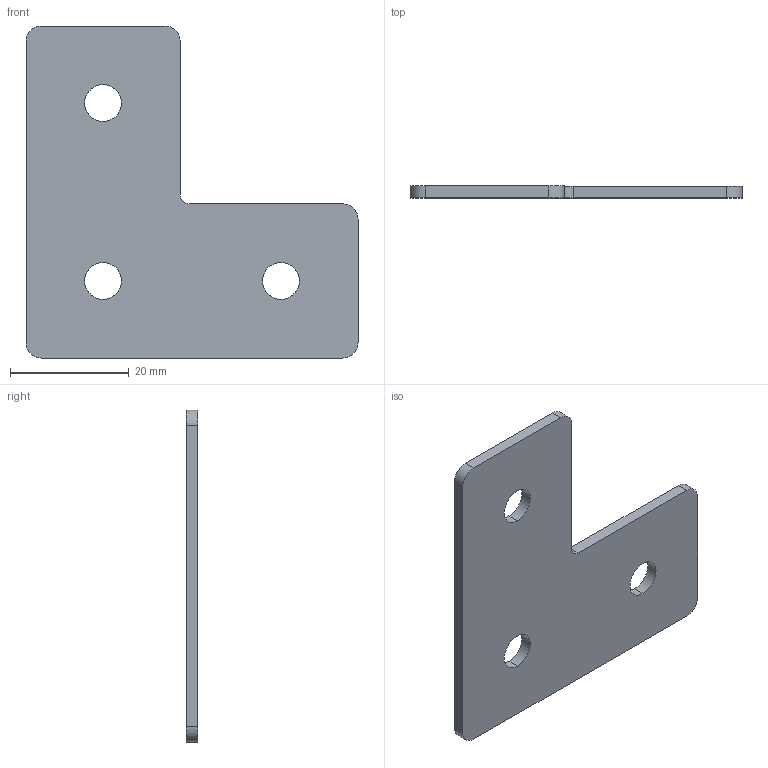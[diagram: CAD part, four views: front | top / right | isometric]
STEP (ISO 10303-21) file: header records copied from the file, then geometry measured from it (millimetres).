
FILE_DESCRIPTION (( 'STEP AP203' ), '1' );
FILE_NAME ('Ã-3-30.STEP', '2016-07-19T10:26:17', ( 'RosInstal-MKM' ), ( '' ), 'SwSTEP 2.0', 'SolidWorks 2014', '' );
FILE_SCHEMA (( 'CONFIG_CONTROL_DESIGN' ));
Length unit declared in the file: millimetre
Products named in the file (1): ﾃ-3-30
Bounding box: 56 x 2 x 56 mm (x, y, z)
Volume: 4277.3 mm3; surface area: 4829.7 mm2
Topology: 1 solids, 1 shells, 20 faces, 54 edges, 36 vertices
Faces by surface type: cylinder 12, plane 8
Entity records: 731 total; most frequent: DIRECTION 120, CARTESIAN_POINT 111, ORIENTED_EDGE 108, EDGE_CURVE 54, AXIS2_PLACEMENT_3D 45, VERTEX_POINT 36, VECTOR 30, LINE 30
